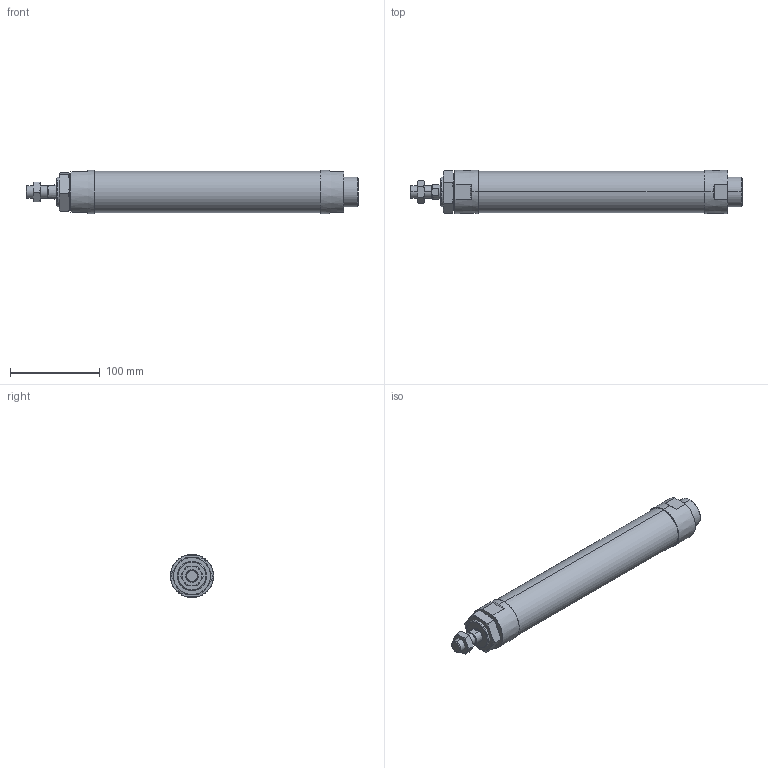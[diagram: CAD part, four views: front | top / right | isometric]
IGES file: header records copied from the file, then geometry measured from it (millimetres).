
Start section: SolidWorks IGES file using analytic representation for surfaces
Global section: file name: C:\Users\Toshiba\Desktop\J#2-40-200-N.IGS; native system: SolidWorks 2014; preprocessor: SolidWorks 2014; author: Toshiba; date: 160308.160521; units: millimetre
Bounding box: 369 x 48 x 48 mm (x, y, z)
Surface area: 59338.8 mm2 (no closed solid volume)
Topology: 0 solids, 0 shells, 94 faces, 1846 edges, 1842 vertices
Faces by surface type: bspline 57, revolution 37
